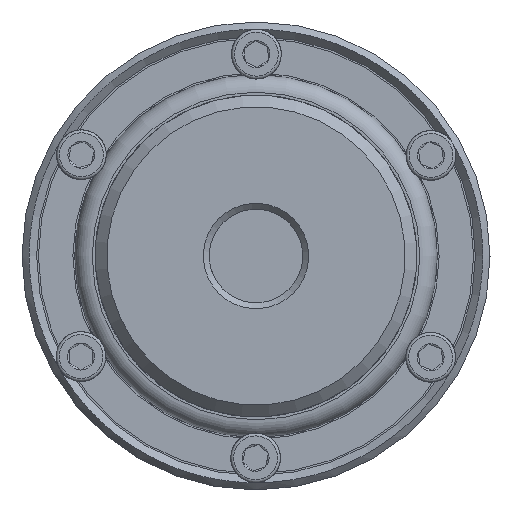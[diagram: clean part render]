
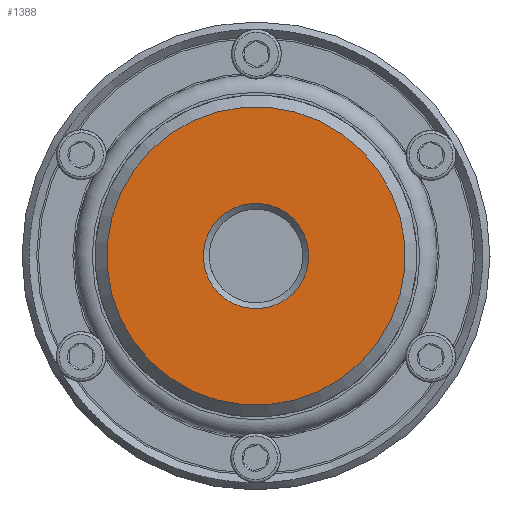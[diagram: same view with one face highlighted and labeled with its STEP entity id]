
A CAD part, left-side view. The second image highlights one B-rep face of the part: STEP entity #1388.
In plain terms, the highlighted planar face has unit normal (-1, 0, 0) as drawn and (0, 0, -1) by its records, which use the part's own axes.
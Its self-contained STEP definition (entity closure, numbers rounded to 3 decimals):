
#1388 = ADVANCED_FACE( '', ( #2847, #2848 ), #2849, .T. );
#2847 = FACE_OUTER_BOUND( '', #4575, .T. );
#2848 = FACE_BOUND( '', #4576, .T. );
#2849 = PLANE( '', #4577 );
#4575 = EDGE_LOOP( '', ( #6747 ) );
#4576 = EDGE_LOOP( '', ( #6748 ) );
#4577 = AXIS2_PLACEMENT_3D( '', #6749, #6750, #6751 );
#6747 = ORIENTED_EDGE( '', *, *, #9557, .T. );
#6748 = ORIENTED_EDGE( '', *, *, #9558, .T. );
#6749 = CARTESIAN_POINT( '', ( 0., 0., 0. ) );
#6750 = DIRECTION( '', ( 0., 0., -1. ) );
#6751 = DIRECTION( '', ( -1., 0., 0. ) );
#9557 = EDGE_CURVE( '', #11198, #11198, #11199, .T. );
#9558 = EDGE_CURVE( '', #11200, #11200, #11201, .F. );
#11198 = VERTEX_POINT( '', #13675 );
#11199 = CIRCLE( '', #13676, 25.5 );
#11200 = VERTEX_POINT( '', #13677 );
#11201 = CIRCLE( '', #13678, 9. );
#13675 = CARTESIAN_POINT( '', ( -25.5, 0., 0. ) );
#13676 = AXIS2_PLACEMENT_3D( '', #15944, #15945, #15946 );
#13677 = CARTESIAN_POINT( '', ( -9., 0., 0. ) );
#13678 = AXIS2_PLACEMENT_3D( '', #15947, #15948, #15949 );
#15944 = CARTESIAN_POINT( '', ( 0., 0., 0. ) );
#15945 = DIRECTION( '', ( 0., 0., -1. ) );
#15946 = DIRECTION( '', ( -1., 0., 0. ) );
#15947 = CARTESIAN_POINT( '', ( 0., 0., 0. ) );
#15948 = DIRECTION( '', ( 0., 0., -1. ) );
#15949 = DIRECTION( '', ( -1., 0., 0. ) );
